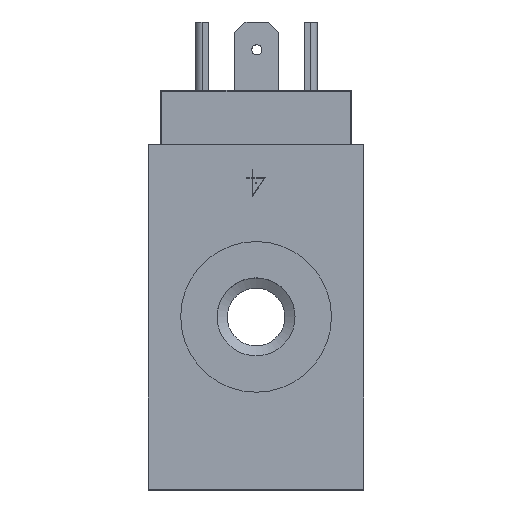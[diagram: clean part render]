
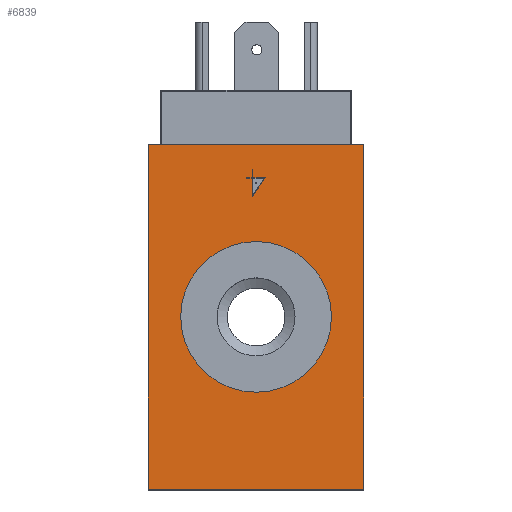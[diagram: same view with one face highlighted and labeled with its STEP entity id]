
A CAD part, top view. The second image highlights one B-rep face of the part: STEP entity #6839.
In plain terms, the highlighted planar face has unit normal (0, 0, 1) as drawn and (0, -1, 0) by its records, which use the part's own axes.
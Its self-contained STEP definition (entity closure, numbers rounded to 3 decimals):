
#275=B_SPLINE_CURVE_WITH_KNOTS('',1,(#9858,#9859),.UNSPECIFIED.,.F.,.F.,
(2,2),(0.923,0.994),.UNSPECIFIED.);
#276=B_SPLINE_CURVE_WITH_KNOTS('',1,(#9862,#9863),.UNSPECIFIED.,.F.,.F.,
(2,2),(0.994,1.),.UNSPECIFIED.);
#277=B_SPLINE_CURVE_WITH_KNOTS('',1,(#9865,#9866),.UNSPECIFIED.,.F.,.F.,
(2,2),(0.,0.071),.UNSPECIFIED.);
#278=B_SPLINE_CURVE_WITH_KNOTS('',1,(#9868,#9869),.UNSPECIFIED.,.F.,.F.,
(2,2),(0.071,0.173),.UNSPECIFIED.);
#279=B_SPLINE_CURVE_WITH_KNOTS('',1,(#9871,#9872),.UNSPECIFIED.,.F.,.F.,
(2,2),(0.173,0.179),.UNSPECIFIED.);
#280=B_SPLINE_CURVE_WITH_KNOTS('',1,(#9874,#9875),.UNSPECIFIED.,.F.,.F.,
(2,2),(0.179,0.281),.UNSPECIFIED.);
#281=B_SPLINE_CURVE_WITH_KNOTS('',1,(#9877,#9878),.UNSPECIFIED.,.F.,.F.,
(2,2),(0.281,0.431),.UNSPECIFIED.);
#282=B_SPLINE_CURVE_WITH_KNOTS('',1,(#9880,#9881),.UNSPECIFIED.,.F.,.F.,
(2,2),(0.431,0.705),.UNSPECIFIED.);
#283=B_SPLINE_CURVE_WITH_KNOTS('',1,(#9883,#9884),.UNSPECIFIED.,.F.,.F.,
(2,2),(0.705,0.923),.UNSPECIFIED.);
#441=CIRCLE('',#7324,11.11);
#754=ORIENTED_EDGE('',*,*,#2426,.F.);
#755=ORIENTED_EDGE('',*,*,#2427,.F.);
#756=ORIENTED_EDGE('',*,*,#2428,.T.);
#757=ORIENTED_EDGE('',*,*,#2429,.T.);
#758=ORIENTED_EDGE('',*,*,#2430,.T.);
#759=ORIENTED_EDGE('',*,*,#2431,.T.);
#760=ORIENTED_EDGE('',*,*,#2432,.T.);
#761=ORIENTED_EDGE('',*,*,#2433,.T.);
#762=ORIENTED_EDGE('',*,*,#2434,.T.);
#763=ORIENTED_EDGE('',*,*,#2435,.T.);
#764=ORIENTED_EDGE('',*,*,#2436,.T.);
#765=ORIENTED_EDGE('',*,*,#2437,.T.);
#766=ORIENTED_EDGE('',*,*,#2438,.T.);
#767=ORIENTED_EDGE('',*,*,#2439,.T.);
#2426=EDGE_CURVE('',#3262,#3263,#3810,.T.);
#2427=EDGE_CURVE('',#3264,#3262,#3811,.T.);
#2428=EDGE_CURVE('',#3264,#3265,#3812,.T.);
#2429=EDGE_CURVE('',#3265,#3263,#3813,.T.);
#2430=EDGE_CURVE('',#3266,#3266,#441,.T.);
#2431=EDGE_CURVE('',#3267,#3268,#275,.T.);
#2432=EDGE_CURVE('',#3268,#3269,#276,.T.);
#2433=EDGE_CURVE('',#3269,#3270,#277,.T.);
#2434=EDGE_CURVE('',#3270,#3271,#278,.T.);
#2435=EDGE_CURVE('',#3271,#3272,#279,.T.);
#2436=EDGE_CURVE('',#3272,#3273,#280,.T.);
#2437=EDGE_CURVE('',#3273,#3274,#281,.T.);
#2438=EDGE_CURVE('',#3274,#3275,#282,.T.);
#2439=EDGE_CURVE('',#3275,#3267,#283,.T.);
#3262=VERTEX_POINT('',#9849);
#3263=VERTEX_POINT('',#9850);
#3264=VERTEX_POINT('',#9852);
#3265=VERTEX_POINT('',#9854);
#3266=VERTEX_POINT('',#9857);
#3267=VERTEX_POINT('',#9860);
#3268=VERTEX_POINT('',#9861);
#3269=VERTEX_POINT('',#9864);
#3270=VERTEX_POINT('',#9867);
#3271=VERTEX_POINT('',#9870);
#3272=VERTEX_POINT('',#9873);
#3273=VERTEX_POINT('',#9876);
#3274=VERTEX_POINT('',#9879);
#3275=VERTEX_POINT('',#9882);
#3810=LINE('',#9848,#4161);
#3811=LINE('',#9851,#4162);
#3812=LINE('',#9853,#4163);
#3813=LINE('',#9855,#4164);
#4161=VECTOR('',#8030,1000.);
#4162=VECTOR('',#8031,1000.);
#4163=VECTOR('',#8032,1000.);
#4164=VECTOR('',#8033,1000.);
#4512=EDGE_LOOP('',(#754,#755,#756,#757));
#4513=EDGE_LOOP('',(#758));
#4514=EDGE_LOOP('',(#759,#760,#761,#762,#763,#764,#765,#766,#767));
#5030=FACE_BOUND('',#4512,.T.);
#5031=FACE_BOUND('',#4513,.T.);
#5032=FACE_BOUND('',#4514,.T.);
#5545=PLANE('',#7323);
#6839=ADVANCED_FACE('',(#5030,#5031,#5032),#5545,.T.);
#7323=AXIS2_PLACEMENT_3D('',#9847,#8028,#8029);
#7324=AXIS2_PLACEMENT_3D('',#9856,#8034,#8035);
#8028=DIRECTION('',(0.,-1.,0.));
#8029=DIRECTION('',(0.,0.,-1.));
#8030=DIRECTION('',(-1.,0.,0.));
#8031=DIRECTION('',(0.,0.,-1.));
#8032=DIRECTION('',(-1.,0.,0.));
#8033=DIRECTION('',(0.,0.,-1.));
#8034=DIRECTION('',(0.,1.,0.));
#8035=DIRECTION('',(0.,0.,-1.));
#9847=CARTESIAN_POINT('',(25.4,-35.,31.75));
#9848=CARTESIAN_POINT('',(25.4,-35.,0.));
#9849=CARTESIAN_POINT('',(25.4,-35.,0.));
#9850=CARTESIAN_POINT('',(-25.4,-35.,0.));
#9851=CARTESIAN_POINT('',(25.4,-35.,31.75));
#9852=CARTESIAN_POINT('',(25.4,-35.,31.75));
#9853=CARTESIAN_POINT('',(25.4,-35.,31.75));
#9854=CARTESIAN_POINT('',(-25.4,-35.,31.75));
#9855=CARTESIAN_POINT('',(-25.4,-35.,31.75));
#9856=CARTESIAN_POINT('',(0.,-35.,15.85));
#9857=CARTESIAN_POINT('',(0.,-35.,4.74));
#9858=CARTESIAN_POINT('',(20.437,-35.,16.402));
#9859=CARTESIAN_POINT('',(20.437,-35.,17.274));
#9860=CARTESIAN_POINT('',(20.437,-35.,16.402));
#9861=CARTESIAN_POINT('',(20.437,-35.,17.274));
#9862=CARTESIAN_POINT('',(20.437,-35.,17.274));
#9863=CARTESIAN_POINT('',(20.515,-35.,17.274));
#9864=CARTESIAN_POINT('',(20.515,-35.,17.274));
#9865=CARTESIAN_POINT('',(20.515,-35.,17.274));
#9866=CARTESIAN_POINT('',(20.515,-35.,16.402));
#9867=CARTESIAN_POINT('',(20.515,-35.,16.402));
#9868=CARTESIAN_POINT('',(20.515,-35.,16.402));
#9869=CARTESIAN_POINT('',(21.765,-35.,16.402));
#9870=CARTESIAN_POINT('',(21.765,-35.,16.402));
#9871=CARTESIAN_POINT('',(21.765,-35.,16.402));
#9872=CARTESIAN_POINT('',(21.765,-35.,16.323));
#9873=CARTESIAN_POINT('',(21.765,-35.,16.323));
#9874=CARTESIAN_POINT('',(21.765,-35.,16.323));
#9875=CARTESIAN_POINT('',(20.515,-35.,16.323));
#9876=CARTESIAN_POINT('',(20.515,-35.,16.323));
#9877=CARTESIAN_POINT('',(20.515,-35.,16.323));
#9878=CARTESIAN_POINT('',(20.515,-35.,14.476));
#9879=CARTESIAN_POINT('',(20.515,-35.,14.476));
#9880=CARTESIAN_POINT('',(20.515,-35.,14.476));
#9881=CARTESIAN_POINT('',(17.765,-35.,16.402));
#9882=CARTESIAN_POINT('',(17.765,-35.,16.402));
#9883=CARTESIAN_POINT('',(17.765,-35.,16.402));
#9884=CARTESIAN_POINT('',(20.437,-35.,16.402));
